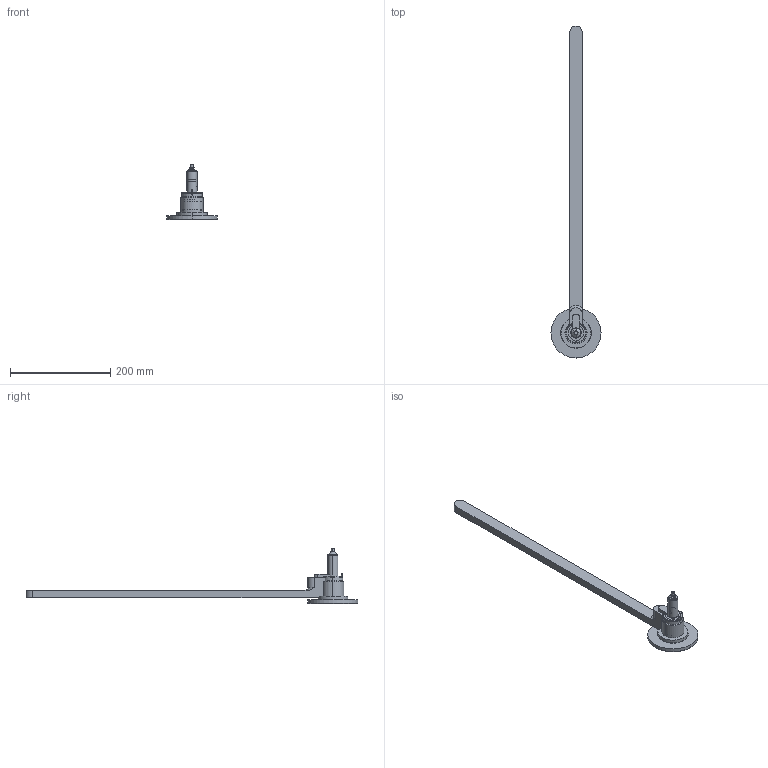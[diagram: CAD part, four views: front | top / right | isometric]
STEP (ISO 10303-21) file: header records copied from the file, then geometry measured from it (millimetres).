
FILE_DESCRIPTION (( 'STEP AP214' ), '1' );
FILE_NAME ('06S-03-050-##P.STEP', '2023-01-04T09:26:44', ( '' ), ( '' ), 'SwSTEP 2.0', 'SolidWorks 2018', '' );
FILE_SCHEMA (( 'AUTOMOTIVE_DESIGN' ));
Length unit declared in the file: millimetre
Products named in the file (3): cutout_06S-03-050-##P; 06S-03-050-##P; nozzle_06S-03-050-##P
Assembly tree (2 placements, depth 2):
  06S-03-050-##P
    nozzle_06S-03-050-##P
    cutout_06S-03-050-##P
Bounding box: 100 x 662.5 x 111 mm (x, y, z)
Volume: 373354.5 mm3; surface area: 94866.9 mm2
Topology: 1 solids, 6 shells, 456 faces, 1208 edges, 751 vertices
Faces by surface type: cylinder 191, plane 122, cone 76, torus 55, sphere 7, bspline 5
Entity records: 19193 total; most frequent: CARTESIAN_POINT 7571, DIRECTION 2548, ORIENTED_EDGE 2392, EDGE_CURVE 1197, AXIS2_PLACEMENT_3D 1049, VERTEX_POINT 751, CIRCLE 592, EDGE_LOOP 477
